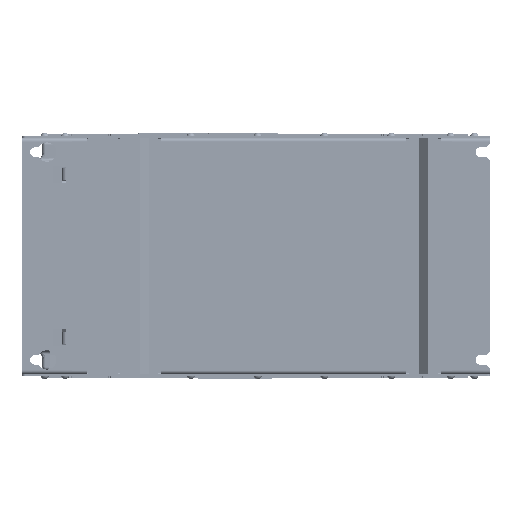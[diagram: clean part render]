
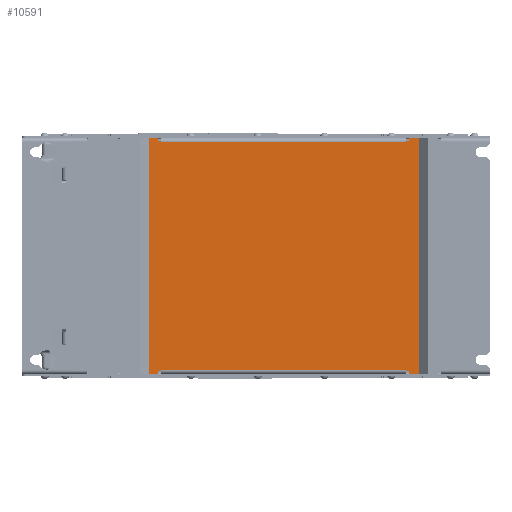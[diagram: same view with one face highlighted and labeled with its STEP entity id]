
A CAD part, front view. The second image highlights one B-rep face of the part: STEP entity #10591.
In plain terms, the highlighted planar face has unit normal (0, -1, 0) as drawn and (0, 0, -1) by its records, which use the part's own axes.
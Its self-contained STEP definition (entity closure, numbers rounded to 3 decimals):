
#7352=CARTESIAN_POINT('',(-79.,-4.5,0.));
#7353=DIRECTION('',(0.,0.,-1.));
#7354=DIRECTION('',(0.,-1.,0.));
#7355=AXIS2_PLACEMENT_3D('',#7352,#7353,#7354);
#7357=DIRECTION('',(1.,0.,0.));
#7358=VECTOR('',#7357,1.5);
#7359=CARTESIAN_POINT('',(-79.,-5.,0.));
#7360=LINE('',#7359,#7358);
#7361=DIRECTION('',(0.,-1.,0.));
#7362=VECTOR('',#7361,2.);
#7363=CARTESIAN_POINT('',(-77.5,-5.,0.));
#7364=LINE('',#7363,#7362);
#7365=DIRECTION('',(-1.,0.,0.));
#7366=VECTOR('',#7365,0.5);
#7367=CARTESIAN_POINT('',(-77.,-7.,0.));
#7368=LINE('',#7367,#7366);
#7369=DIRECTION('',(0.,1.,0.));
#7370=VECTOR('',#7369,165.);
#7371=CARTESIAN_POINT('',(-77.,-172.,0.));
#7372=LINE('',#7371,#7370);
#7373=DIRECTION('',(-1.,0.,0.));
#7374=VECTOR('',#7373,0.5);
#7375=CARTESIAN_POINT('',(-77.,-172.,0.));
#7376=LINE('',#7375,#7374);
#7377=DIRECTION('',(0.,-1.,0.));
#7378=VECTOR('',#7377,2.);
#7379=CARTESIAN_POINT('',(-77.5,-172.,0.));
#7380=LINE('',#7379,#7378);
#7381=DIRECTION('',(1.,0.,0.));
#7382=VECTOR('',#7381,1.5);
#7383=CARTESIAN_POINT('',(-79.,-174.,0.));
#7384=LINE('',#7383,#7382);
#7385=CARTESIAN_POINT('',(-79.,-174.5,0.));
#7386=DIRECTION('',(0.,0.,-1.));
#7387=DIRECTION('',(-1.,0.,0.));
#7388=AXIS2_PLACEMENT_3D('',#7385,#7386,#7387);
#7390=DIRECTION('',(0.,-1.,0.));
#7391=VECTOR('',#7390,6.5);
#7392=CARTESIAN_POINT('',(-79.5,-174.5,0.));
#7393=LINE('',#7392,#7391);
#7394=CARTESIAN_POINT('',(79.,-174.5,0.));
#7395=DIRECTION('',(0.,0.,-1.));
#7396=DIRECTION('',(0.,1.,0.));
#7397=AXIS2_PLACEMENT_3D('',#7394,#7395,#7396);
#7399=DIRECTION('',(-1.,0.,0.));
#7400=VECTOR('',#7399,1.5);
#7401=CARTESIAN_POINT('',(79.,-174.,0.));
#7402=LINE('',#7401,#7400);
#7403=DIRECTION('',(0.,1.,0.));
#7404=VECTOR('',#7403,2.);
#7405=CARTESIAN_POINT('',(77.5,-174.,0.));
#7406=LINE('',#7405,#7404);
#7407=DIRECTION('',(1.,0.,0.));
#7408=VECTOR('',#7407,0.5);
#7409=CARTESIAN_POINT('',(77.,-172.,0.));
#7410=LINE('',#7409,#7408);
#7411=DIRECTION('',(0.,1.,0.));
#7412=VECTOR('',#7411,165.);
#7413=CARTESIAN_POINT('',(77.,-172.,0.));
#7414=LINE('',#7413,#7412);
#7415=DIRECTION('',(1.,0.,0.));
#7416=VECTOR('',#7415,0.5);
#7417=CARTESIAN_POINT('',(77.,-7.,0.));
#7418=LINE('',#7417,#7416);
#7419=DIRECTION('',(0.,1.,0.));
#7420=VECTOR('',#7419,2.);
#7421=CARTESIAN_POINT('',(77.5,-7.,0.));
#7422=LINE('',#7421,#7420);
#7423=DIRECTION('',(-1.,0.,0.));
#7424=VECTOR('',#7423,1.5);
#7425=CARTESIAN_POINT('',(79.,-5.,0.));
#7426=LINE('',#7425,#7424);
#7427=CARTESIAN_POINT('',(79.,-4.5,0.));
#7428=DIRECTION('',(0.,0.,-1.));
#7429=DIRECTION('',(1.,0.,0.));
#7430=AXIS2_PLACEMENT_3D('',#7427,#7428,#7429);
#7432=DIRECTION('',(1.,0.,0.));
#7433=VECTOR('',#7432,159.);
#7434=CARTESIAN_POINT('',(-79.5,1.,0.));
#7435=LINE('',#7434,#7433);
#7436=DIRECTION('',(0.,-1.,0.));
#7437=VECTOR('',#7436,5.5);
#7438=CARTESIAN_POINT('',(-79.5,1.,0.));
#7439=LINE('',#7438,#7437);
#7974=DIRECTION('',(0.,-1.,0.));
#7975=VECTOR('',#7974,6.5);
#7976=CARTESIAN_POINT('',(79.5,-174.5,0.));
#7977=LINE('',#7976,#7975);
#8030=DIRECTION('',(0.,-1.,0.));
#8031=VECTOR('',#8030,5.5);
#8032=CARTESIAN_POINT('',(79.5,1.,0.));
#8033=LINE('',#8032,#8031);
#9554=DIRECTION('',(1.,0.,0.));
#9555=VECTOR('',#9554,159.);
#9556=CARTESIAN_POINT('',(-79.5,-181.,0.));
#9557=LINE('',#9556,#9555);
#9797=CARTESIAN_POINT('',(-79.5,1.,0.));
#9799=VERTEX_POINT('',#9797);
#9805=CARTESIAN_POINT('',(79.5,1.,0.));
#9807=VERTEX_POINT('',#9805);
#9808=CARTESIAN_POINT('',(-79.5,-181.,0.));
#9810=VERTEX_POINT('',#9808);
#9816=CARTESIAN_POINT('',(79.5,-181.,0.));
#9818=VERTEX_POINT('',#9816);
#9994=CARTESIAN_POINT('',(-77.5,-5.,0.));
#9996=VERTEX_POINT('',#9994);
#9998=CARTESIAN_POINT('',(-77.5,-174.,0.));
#10000=VERTEX_POINT('',#9998);
#10002=CARTESIAN_POINT('',(77.5,-5.,0.));
#10004=VERTEX_POINT('',#10002);
#10006=CARTESIAN_POINT('',(77.5,-174.,0.));
#10008=VERTEX_POINT('',#10006);
#10068=CARTESIAN_POINT('',(-77.,-172.,0.));
#10069=CARTESIAN_POINT('',(-77.,-7.,0.));
#10070=VERTEX_POINT('',#10068);
#10071=VERTEX_POINT('',#10069);
#10072=CARTESIAN_POINT('',(-77.5,-172.,0.));
#10073=VERTEX_POINT('',#10072);
#10074=CARTESIAN_POINT('',(-77.5,-7.,0.));
#10075=VERTEX_POINT('',#10074);
#10080=CARTESIAN_POINT('',(77.,-172.,0.));
#10081=CARTESIAN_POINT('',(77.,-7.,0.));
#10082=VERTEX_POINT('',#10080);
#10083=VERTEX_POINT('',#10081);
#10088=CARTESIAN_POINT('',(77.5,-172.,0.));
#10089=VERTEX_POINT('',#10088);
#10090=CARTESIAN_POINT('',(77.5,-7.,0.));
#10091=VERTEX_POINT('',#10090);
#10492=CARTESIAN_POINT('',(-79.,-5.,0.));
#10493=VERTEX_POINT('',#10492);
#10494=CARTESIAN_POINT('',(-79.5,-4.5,0.));
#10495=VERTEX_POINT('',#10494);
#10496=CARTESIAN_POINT('',(-79.5,-174.5,0.));
#10497=CARTESIAN_POINT('',(-79.,-174.,0.));
#10498=VERTEX_POINT('',#10496);
#10499=VERTEX_POINT('',#10497);
#10508=CARTESIAN_POINT('',(79.,-174.,0.));
#10509=VERTEX_POINT('',#10508);
#10510=CARTESIAN_POINT('',(79.5,-174.5,0.));
#10511=VERTEX_POINT('',#10510);
#10520=CARTESIAN_POINT('',(79.5,-4.5,0.));
#10521=CARTESIAN_POINT('',(79.,-5.,0.));
#10522=VERTEX_POINT('',#10520);
#10523=VERTEX_POINT('',#10521);
#10536=CARTESIAN_POINT('',(0.,0.,0.));
#10537=DIRECTION('',(0.,0.,1.));
#10538=DIRECTION('',(1.,0.,0.));
#10539=AXIS2_PLACEMENT_3D('',#10536,#10537,#10538);
#10540=PLANE('',#10539);
#10542=ORIENTED_EDGE('',*,*,#10541,.F.);
#10544=ORIENTED_EDGE('',*,*,#10543,.T.);
#10546=ORIENTED_EDGE('',*,*,#10545,.T.);
#10548=ORIENTED_EDGE('',*,*,#10547,.F.);
#10550=ORIENTED_EDGE('',*,*,#10549,.F.);
#10552=ORIENTED_EDGE('',*,*,#10551,.T.);
#10554=ORIENTED_EDGE('',*,*,#10553,.T.);
#10556=ORIENTED_EDGE('',*,*,#10555,.F.);
#10558=ORIENTED_EDGE('',*,*,#10557,.F.);
#10560=ORIENTED_EDGE('',*,*,#10559,.T.);
#10562=ORIENTED_EDGE('',*,*,#10561,.T.);
#10564=ORIENTED_EDGE('',*,*,#10563,.F.);
#10566=ORIENTED_EDGE('',*,*,#10565,.F.);
#10568=ORIENTED_EDGE('',*,*,#10567,.T.);
#10570=ORIENTED_EDGE('',*,*,#10569,.T.);
#10572=ORIENTED_EDGE('',*,*,#10571,.F.);
#10574=ORIENTED_EDGE('',*,*,#10573,.T.);
#10576=ORIENTED_EDGE('',*,*,#10575,.T.);
#10578=ORIENTED_EDGE('',*,*,#10577,.T.);
#10580=ORIENTED_EDGE('',*,*,#10579,.F.);
#10582=ORIENTED_EDGE('',*,*,#10581,.F.);
#10584=ORIENTED_EDGE('',*,*,#10583,.F.);
#10586=ORIENTED_EDGE('',*,*,#10585,.F.);
#10588=ORIENTED_EDGE('',*,*,#10587,.T.);
#10589=EDGE_LOOP('',(#10542,#10544,#10546,#10548,#10550,#10552,#10554,#10556,
#10558,#10560,#10562,#10564,#10566,#10568,#10570,#10572,#10574,#10576,#10578,
#10580,#10582,#10584,#10586,#10588));
#10590=FACE_OUTER_BOUND('',#10589,.F.);
#10591=ADVANCED_FACE('',(#10590),#10540,.F.);
#7356=CIRCLE('',#7355,0.5);
#7389=CIRCLE('',#7388,0.5);
#7398=CIRCLE('',#7397,0.5);
#7431=CIRCLE('',#7430,0.5);
#10541=EDGE_CURVE('',#10493,#10495,#7356,.T.);
#10543=EDGE_CURVE('',#10493,#9996,#7360,.T.);
#10545=EDGE_CURVE('',#9996,#10075,#7364,.T.);
#10547=EDGE_CURVE('',#10071,#10075,#7368,.T.);
#10549=EDGE_CURVE('',#10070,#10071,#7372,.T.);
#10551=EDGE_CURVE('',#10070,#10073,#7376,.T.);
#10553=EDGE_CURVE('',#10073,#10000,#7380,.T.);
#10555=EDGE_CURVE('',#10499,#10000,#7384,.T.);
#10557=EDGE_CURVE('',#10498,#10499,#7389,.T.);
#10559=EDGE_CURVE('',#10498,#9810,#7393,.T.);
#10561=EDGE_CURVE('',#9810,#9818,#9557,.T.);
#10563=EDGE_CURVE('',#10511,#9818,#7977,.T.);
#10565=EDGE_CURVE('',#10509,#10511,#7398,.T.);
#10567=EDGE_CURVE('',#10509,#10008,#7402,.T.);
#10569=EDGE_CURVE('',#10008,#10089,#7406,.T.);
#10571=EDGE_CURVE('',#10082,#10089,#7410,.T.);
#10573=EDGE_CURVE('',#10082,#10083,#7414,.T.);
#10575=EDGE_CURVE('',#10083,#10091,#7418,.T.);
#10577=EDGE_CURVE('',#10091,#10004,#7422,.T.);
#10579=EDGE_CURVE('',#10523,#10004,#7426,.T.);
#10581=EDGE_CURVE('',#10522,#10523,#7431,.T.);
#10583=EDGE_CURVE('',#9807,#10522,#8033,.T.);
#10585=EDGE_CURVE('',#9799,#9807,#7435,.T.);
#10587=EDGE_CURVE('',#9799,#10495,#7439,.T.);
